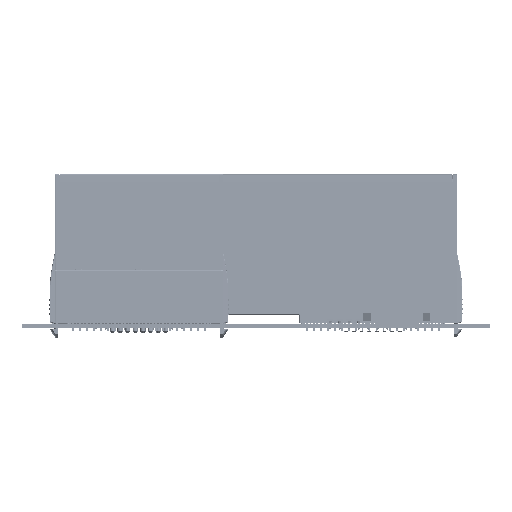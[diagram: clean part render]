
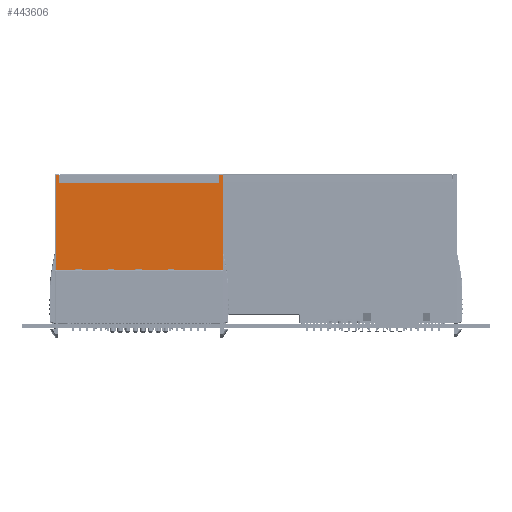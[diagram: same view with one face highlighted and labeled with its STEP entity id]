
A CAD part, left-side view. The second image highlights one B-rep face of the part: STEP entity #443606.
In plain terms, the highlighted planar face has unit normal (-1, 0, 0).
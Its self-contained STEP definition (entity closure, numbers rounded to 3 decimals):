
#39327=FACE_OUTER_BOUND('',#63817,.T.);
#63817=EDGE_LOOP('',(#381795,#381796,#381797,#381798,#381799,#381800,#381801,
#381802,#381803,#381804,#381805,#381806));
#111727=LINE('',#712776,#161722);
#112760=LINE('',#715131,#162755);
#113532=LINE('',#718475,#163527);
#113533=LINE('',#718478,#163528);
#113543=LINE('',#718538,#163538);
#113546=LINE('',#718549,#163541);
#113547=LINE('',#718551,#163542);
#113548=LINE('',#718552,#163543);
#113549=LINE('',#718553,#163544);
#113550=LINE('',#718555,#163545);
#113551=LINE('',#718556,#163546);
#113552=LINE('',#718557,#163547);
#161722=VECTOR('',#580414,10.);
#162755=VECTOR('',#582483,10.);
#163527=VECTOR('',#584565,10.);
#163528=VECTOR('',#584568,10.);
#163538=VECTOR('',#584664,10.);
#163541=VECTOR('',#584679,10.);
#163542=VECTOR('',#584680,10.);
#163543=VECTOR('',#584681,10.);
#163544=VECTOR('',#584682,10.);
#163545=VECTOR('',#584683,10.);
#163546=VECTOR('',#584684,10.);
#163547=VECTOR('',#584685,10.);
#201048=VERTEX_POINT('',#712773);
#201049=VERTEX_POINT('',#712775);
#201836=VERTEX_POINT('',#715128);
#201837=VERTEX_POINT('',#715130);
#202535=VERTEX_POINT('',#718442);
#202537=VERTEX_POINT('',#718454);
#202540=VERTEX_POINT('',#718473);
#202541=VERTEX_POINT('',#718477);
#202547=VERTEX_POINT('',#718535);
#202548=VERTEX_POINT('',#718537);
#202551=VERTEX_POINT('',#718550);
#202552=VERTEX_POINT('',#718554);
#260172=EDGE_CURVE('',#201049,#201048,#111727,.T.);
#261319=EDGE_CURVE('',#201837,#201836,#112760,.F.);
#262460=EDGE_CURVE('',#201048,#202540,#113532,.T.);
#262461=EDGE_CURVE('',#202541,#201049,#113533,.T.);
#262487=EDGE_CURVE('',#202547,#202548,#113543,.T.);
#262493=EDGE_CURVE('',#202540,#202537,#113546,.T.);
#262494=EDGE_CURVE('',#202551,#202537,#113547,.T.);
#262495=EDGE_CURVE('',#202548,#202551,#113548,.T.);
#262496=EDGE_CURVE('',#201837,#202547,#113549,.T.);
#262497=EDGE_CURVE('',#202552,#201836,#113550,.T.);
#262498=EDGE_CURVE('',#202535,#202552,#113551,.T.);
#262499=EDGE_CURVE('',#202535,#202541,#113552,.T.);
#381795=ORIENTED_EDGE('',*,*,#260172,.T.);
#381796=ORIENTED_EDGE('',*,*,#262460,.T.);
#381797=ORIENTED_EDGE('',*,*,#262493,.T.);
#381798=ORIENTED_EDGE('',*,*,#262494,.F.);
#381799=ORIENTED_EDGE('',*,*,#262495,.F.);
#381800=ORIENTED_EDGE('',*,*,#262487,.F.);
#381801=ORIENTED_EDGE('',*,*,#262496,.F.);
#381802=ORIENTED_EDGE('',*,*,#261319,.T.);
#381803=ORIENTED_EDGE('',*,*,#262497,.F.);
#381804=ORIENTED_EDGE('',*,*,#262498,.F.);
#381805=ORIENTED_EDGE('',*,*,#262499,.T.);
#381806=ORIENTED_EDGE('',*,*,#262461,.T.);
#400515=PLANE('',#474341);
#443606=ADVANCED_FACE('',(#39327),#400515,.F.);
#474341=AXIS2_PLACEMENT_3D('',#718548,#584677,#584678);
#580414=DIRECTION('',(0.,-1.,0.));
#582483=DIRECTION('',(0.,0.,-1.));
#584565=DIRECTION('',(0.,0.,1.));
#584568=DIRECTION('',(0.,0.,-1.));
#584664=DIRECTION('',(0.,0.,1.));
#584677=DIRECTION('center_axis',(1.,0.,0.));
#584678=DIRECTION('ref_axis',(0.,0.,
1.));
#584679=DIRECTION('',(0.,-1.,0.));
#584680=DIRECTION('',(0.,0.,-1.));
#584681=DIRECTION('',(0.,-1.,0.));
#584682=DIRECTION('',(0.,-1.,0.));
#584683=DIRECTION('',(0.,-1.,0.));
#584684=DIRECTION('',(0.,0.,1.));
#584685=DIRECTION('',(0.,-1.,0.));
#712773=CARTESIAN_POINT('',(27.663,127.631,19.704));
#712775=CARTESIAN_POINT('',(27.663,186.331,19.704));
#712776=CARTESIAN_POINT('',(27.663,156.981,19.704));
#715128=CARTESIAN_POINT('',(27.663,186.366,54.704));
#715130=CARTESIAN_POINT('',(27.663,186.366,52.004));
#715131=CARTESIAN_POINT('',(27.663,186.366,38.754));
#718442=CARTESIAN_POINT('',(27.663,187.681,19.904));
#718454=CARTESIAN_POINT('',(27.663,126.281,19.904));
#718473=CARTESIAN_POINT('',(27.663,127.631,19.904));
#718475=CARTESIAN_POINT('',(27.663,127.631,22.204));
#718477=CARTESIAN_POINT('',(27.663,186.331,19.904));
#718478=CARTESIAN_POINT('',(27.663,186.331,22.204));
#718535=CARTESIAN_POINT('',(27.663,127.605,52.004));
#718537=CARTESIAN_POINT('',(27.663,127.605,54.704));
#718538=CARTESIAN_POINT('',(27.663,127.605,38.754));
#718548=CARTESIAN_POINT('Origin',(27.663,156.981,26.004));
#718549=CARTESIAN_POINT('',(27.663,141.481,19.904));
#718550=CARTESIAN_POINT('',(27.663,126.281,54.704));
#718551=CARTESIAN_POINT('',(27.663,126.281,13.004));
#718552=CARTESIAN_POINT('',(27.663,141.481,54.704));
#718553=CARTESIAN_POINT('',(27.663,125.981,52.004));
#718554=CARTESIAN_POINT('',(27.663,187.681,54.704));
#718555=CARTESIAN_POINT('',(27.663,172.481,54.704));
#718556=CARTESIAN_POINT('',(27.663,187.681,39.004));
#718557=CARTESIAN_POINT('',(27.663,172.481,19.904));
